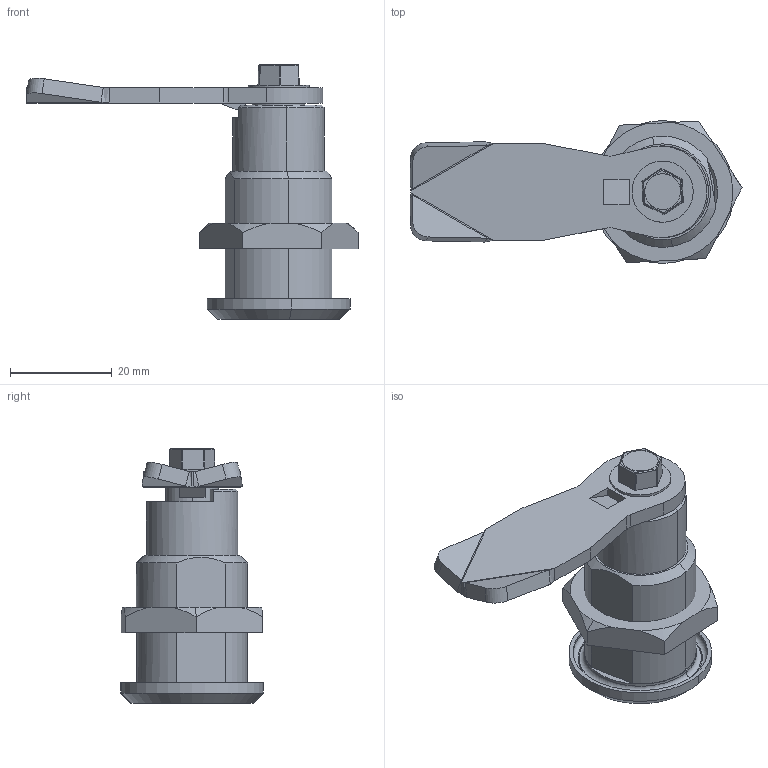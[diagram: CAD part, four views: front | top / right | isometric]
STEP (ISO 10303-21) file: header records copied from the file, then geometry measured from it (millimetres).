
FILE_DESCRIPTION (( 'STEP AP214' ), '1' );
FILE_NAME ('ZZR38.STEP', '2010-02-22T16:15:00', ( '£ukaszC' ), ( '' ), 'SwSTEP 2.0', 'SolidWorks 2008', '' );
FILE_SCHEMA (( 'AUTOMOTIVE_DESIGN' ));
Length unit declared in the file: millimetre
Products named in the file (6): ZZR38; 2.ZZR38.02.01.00_Domyœlna; 2.ZZR38.01.02.00_Domyœlna; 1C_J-10018_00_03_00_Domyœlna; M6 x 22_Domyœlna; 2_M22_06_01_00_Domyœlna
Assembly tree (5 placements, depth 2):
  ZZR38
    2.ZZR38.01.02.00_Domyœlna
    M6 x 22_Domyœlna
    2.ZZR38.02.01.00_Domyœlna
    2_M22_06_01_00_Domyœlna
    1C_J-10018_00_03_00_Domyœlna
Bounding box: 65.11 x 28 x 49.9 mm (x, y, z)
Volume: 17504.7 mm3; surface area: 12431 mm2
Topology: 6 solids, 6 shells, 204 faces, 477 edges, 295 vertices
Faces by surface type: plane 83, cylinder 64, cone 42, sphere 7, torus 4, bspline 4
Entity records: 6968 total; most frequent: CARTESIAN_POINT 1286, DIRECTION 1021, ORIENTED_EDGE 946, EDGE_CURVE 473, AXIS2_PLACEMENT_3D 390, VERTEX_POINT 295, VECTOR 241, LINE 241
